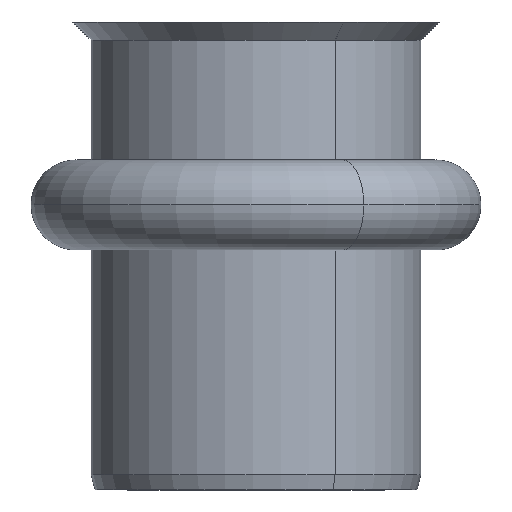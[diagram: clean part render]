
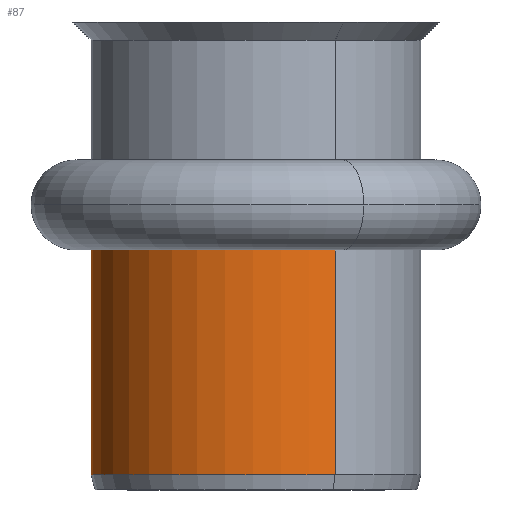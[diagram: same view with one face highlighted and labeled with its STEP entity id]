
A CAD part, front view. The second image highlights one B-rep face of the part: STEP entity #87.
In plain terms, the highlighted cylindrical face has radius 5.5 mm (diameter 11 mm), a partial arc.
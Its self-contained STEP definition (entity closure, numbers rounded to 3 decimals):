
#87=ADVANCED_FACE('Shaft.1',(#196),#197,.T.);
#196=FACE_OUTER_BOUND('',#328,.T.);
#197=CYLINDRICAL_SURFACE('',#329,5.5);
#328=EDGE_LOOP('',(#509,#510,#511,#512));
#329=AXIS2_PLACEMENT_3D('',#513,#514,#515);
#509=ORIENTED_EDGE('',*,*,#802,.F.);
#510=ORIENTED_EDGE('',*,*,#803,.T.);
#511=ORIENTED_EDGE('',*,*,#799,.T.);
#512=ORIENTED_EDGE('',*,*,#804,.F.);
#513=CARTESIAN_POINT('',(0.0,0.0,7.8));
#514=DIRECTION('',(0.0,0.0,1.0));
#515=DIRECTION('',(1.0,0.0,0.0));
#799=EDGE_CURVE('',#951,#949,#952,.T.);
#802=EDGE_CURVE('',#955,#956,#957,.T.);
#803=EDGE_CURVE('',#955,#951,#958,.T.);
#804=EDGE_CURVE('',#956,#949,#959,.T.);
#949=VERTEX_POINT('',#1137);
#951=VERTEX_POINT('',#1139);
#952=LINE('',#1140,#1141);
#955=VERTEX_POINT('',#1144);
#956=VERTEX_POINT('',#1145);
#957=LINE('',#1146,#1147);
#958=CIRCLE('',#1148,5.5);
#959=CIRCLE('',#1149,5.5);
#1137=CARTESIAN_POINT('',(2.637,-4.827,8.0));
#1139=CARTESIAN_POINT('',(2.637,-4.827,0.5));
#1140=CARTESIAN_POINT('',(2.637,-4.827,7.75));
#1141=VECTOR('',#1355,1.0);
#1144=CARTESIAN_POINT('',(-5.5,0.,0.5));
#1145=CARTESIAN_POINT('',(-5.5,0.,8.0));
#1146=CARTESIAN_POINT('',(-5.5,0.,7.8));
#1147=VECTOR('',#1359,1.0);
#1148=AXIS2_PLACEMENT_3D('',#1360,#1361,#1362);
#1149=AXIS2_PLACEMENT_3D('',#1363,#1364,#1365);
#1355=DIRECTION('',(0.0,0.0,1.0));
#1359=DIRECTION('',(0.0,0.0,1.0));
#1360=CARTESIAN_POINT('',(0.0,0.0,0.5));
#1361=DIRECTION('',(0.0,0.0,1.0));
#1362=DIRECTION('',(1.0,0.0,0.0));
#1363=CARTESIAN_POINT('',(0.0,0.0,8.0));
#1364=DIRECTION('',(0.0,0.0,1.0));
#1365=DIRECTION('',(1.0,0.0,0.0));
